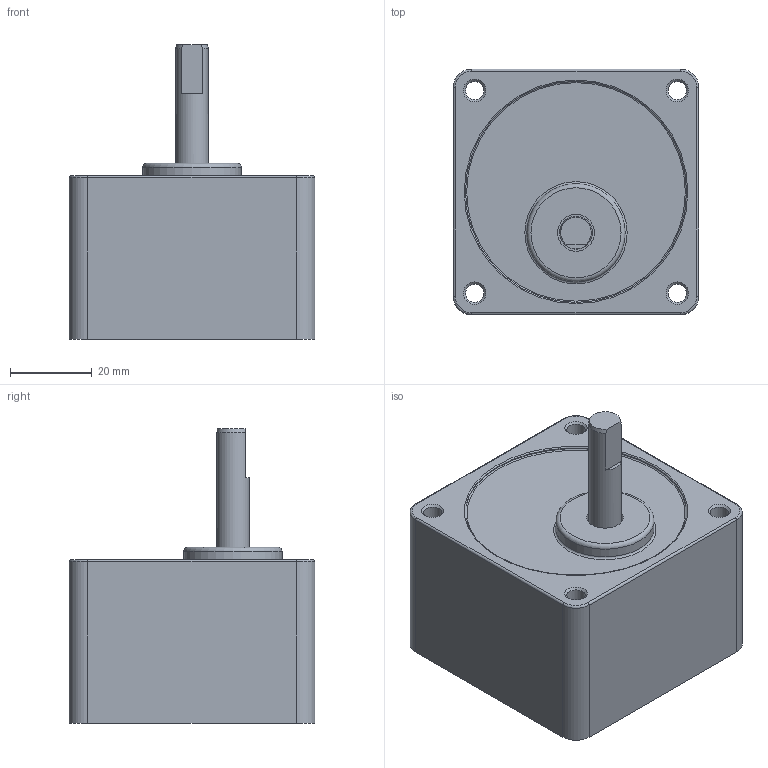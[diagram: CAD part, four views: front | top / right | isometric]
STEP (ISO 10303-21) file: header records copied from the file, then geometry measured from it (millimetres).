
FILE_DESCRIPTION((''),'2;1');
FILE_NAME('\\192.168.2.97\고객배포용도면\3D\Small Standard Series\GEAR HEAD\GEAR HEAD\6W\S6DA20~250.stp','2013-11-27T13:53:10',('jy-jung'),(''),'Autodesk Inventor 2011','Autodesk Inventor 2011','');
FILE_SCHEMA(('AUTOMOTIVE_DESIGN { 1 0 10303 214 1 1 1 1 }'));
Length unit declared in the file: millimetre
Products named in the file (1): 부품30
Bounding box: 60 x 60 x 72 mm (x, y, z)
Volume: 130844.5 mm3; surface area: 20818.5 mm2
Topology: 1 solids, 1 shells, 45 faces, 99 edges, 62 vertices
Faces by surface type: cylinder 18, plane 14, torus 8, cone 5
Full cylindrical faces by diameter (mm): 4.5 x4, 6 x1, 8 x1, 9 x1, 24 x1, 53.997 x1, 54 x1
Entity records: 1159 total; most frequent: DIRECTION 216, CARTESIAN_POINT 183, ORIENTED_EDGE 152, AXIS2_PLACEMENT_3D 96, EDGE_LOOP 77, EDGE_CURVE 76, VERTEX_POINT 57, CIRCLE 50
